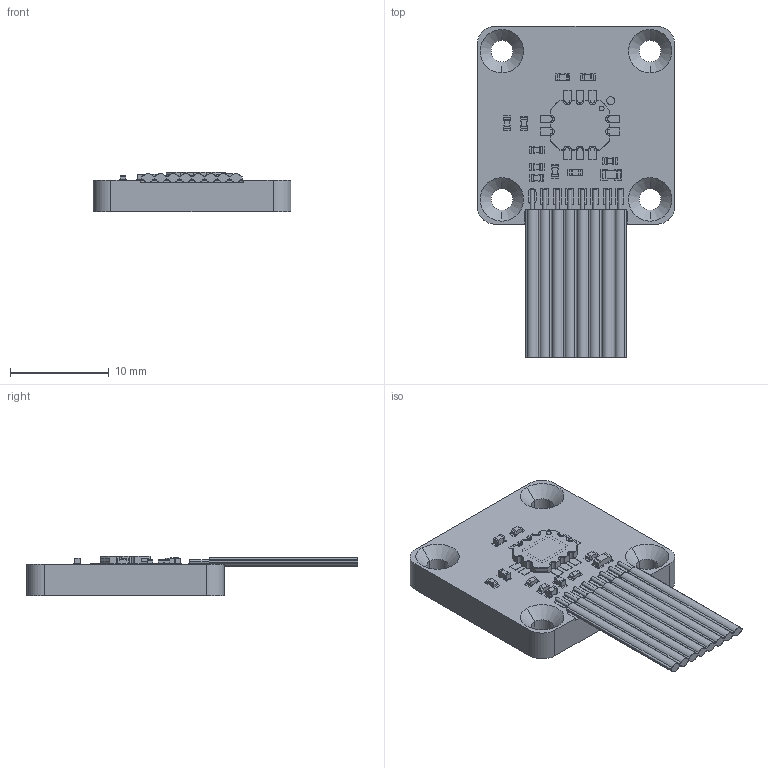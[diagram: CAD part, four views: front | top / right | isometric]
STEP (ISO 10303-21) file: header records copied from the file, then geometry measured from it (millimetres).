
FILE_DESCRIPTION (( 'STEP AP214' ), '1' );
FILE_NAME ('Posic_4501.STEP', '2018-07-19T12:19:38', ( '' ), ( '' ), 'SwSTEP 2.0', 'SolidWorks 2018', '' );
FILE_SCHEMA (( 'AUTOMOTIVE_DESIGN' ));
Length unit declared in the file: millimetre
Products named in the file (10): Cable_plat_1,27:8x15mmx2mm; Posic_45XX_R0402; Posic_4501; Posic_45XX_Fill; Posic_45XX_HolderA; Posic_45XX_R0603; Posic_45XX_C0402; Posic_45XX_PCB; Posic_45XX_Encoder_D‚faut; Posic_45XX_HolderA_PCB
Assembly tree (17 placements, depth 3):
  Posic_4501
    Posic_45XX_Encoder_D‚faut
      Posic_45XX_PCB
      Posic_45XX_Fill
    Posic_45XX_HolderA
      Posic_45XX_HolderA_PCB
      Posic_45XX_C0402  x4
      Posic_45XX_R0402  x6
      Posic_45XX_R0603
      Cable_plat_1,27:8x15mmx2mm
Bounding box: 20 x 33.5 x 4.02 mm (x, y, z)
Volume: 1315.2 mm3; surface area: 1657.3 mm2
Topology: 15 solids, 15 shells, 688 faces, 1733 edges, 1090 vertices
Faces by surface type: plane 465, cylinder 183, sphere 32, cone 8
Entity records: 16637 total; most frequent: DIRECTION 2275, CARTESIAN_POINT 2265, ORIENTED_EDGE 2194, EDGE_CURVE 1097, LINE 819, VECTOR 819, AXIS2_PLACEMENT_3D 728, VERTEX_POINT 718
